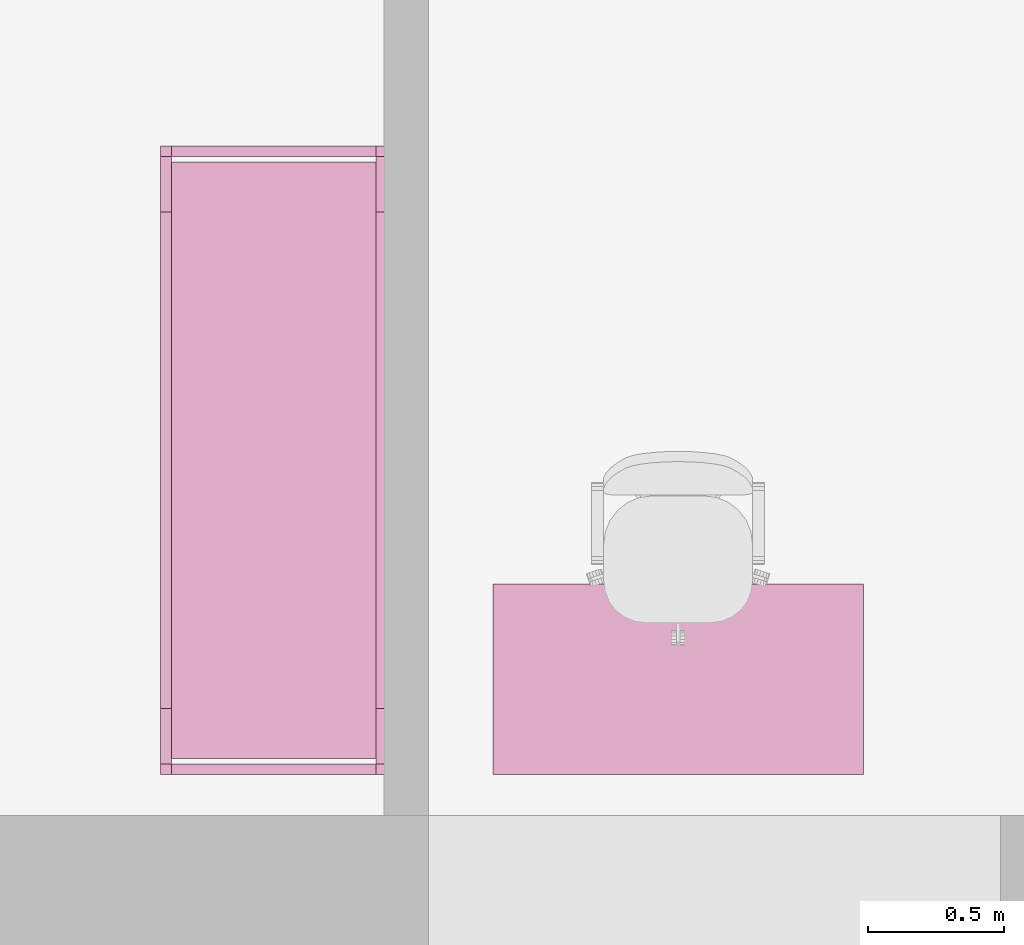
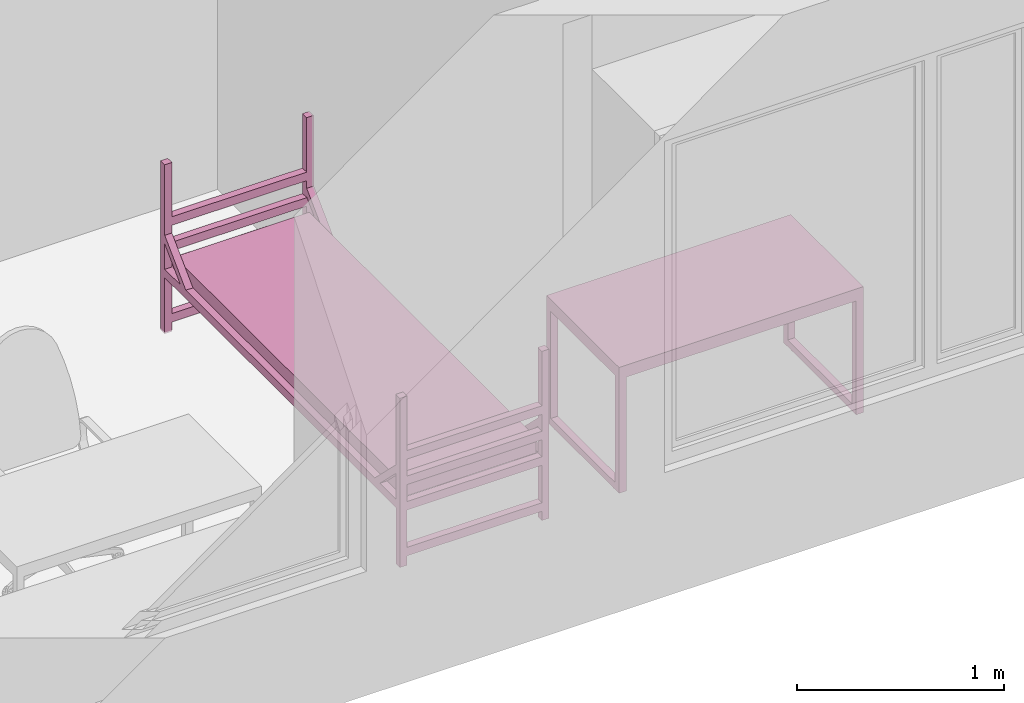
# One storey, part 27 of 46: 2 furnishings.
"""IFC2X3 building model written with IfcOpenShell, lengths in millimetres."""

from ifc_helpers import new_model, entity, si_unit, converted_unit, derived_unit, direction, frame, frame_2d, origin, place, context, subcontext, project, spatial, polyline, circle_curve, parameter, trimmed, segment, composite_curve, rectangle, outline, extrude, faceted_brep, source, transform, mapped, material, material_list, type_object, type_shapes, element, save


model = new_model("IFC2X3")

# Units and contexts
model_context = context("Model", 3, precision=0.01, world=origin(), true_north=direction((6.12303176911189e-17, 1.0)))
body_context = subcontext(model_context, "Body", "Model", "MODEL_VIEW")
ifc_project = project(units=[si_unit("LENGTHUNIT", "METRE", prefix="MILLI"), si_unit("AREAUNIT", "SQUARE_METRE"), si_unit("VOLUMEUNIT", "CUBIC_METRE"), converted_unit("PLANEANGLEUNIT", "DEGREE", entity("IfcRatioMeasure", 0.0174532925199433), si_unit("PLANEANGLEUNIT", "RADIAN"), dimensions=[0, 0, 0, 0, 0, 0, 0]), si_unit("MASSUNIT", "GRAM", prefix="KILO"), derived_unit("MASSDENSITYUNIT", [(si_unit("MASSUNIT", "GRAM", prefix="KILO"), 1), (si_unit("LENGTHUNIT", "METRE"), -3)]), si_unit("TIMEUNIT", "SECOND"), si_unit("FREQUENCYUNIT", "HERTZ"), si_unit("THERMODYNAMICTEMPERATUREUNIT", "DEGREE_CELSIUS"), derived_unit("THERMALTRANSMITTANCEUNIT", [(si_unit("MASSUNIT", "GRAM", prefix="KILO"), 1), (si_unit("THERMODYNAMICTEMPERATUREUNIT", "KELVIN"), -1), (si_unit("TIMEUNIT", "SECOND"), -3)]), derived_unit("VOLUMETRICFLOWRATEUNIT", [(si_unit("LENGTHUNIT", "METRE"), 3), (si_unit("TIMEUNIT", "SECOND"), -1)]), si_unit("ELECTRICCURRENTUNIT", "AMPERE"), si_unit("ELECTRICVOLTAGEUNIT", "VOLT"), si_unit("POWERUNIT", "WATT"), si_unit("FORCEUNIT", "NEWTON", prefix="KILO"), si_unit("ILLUMINANCEUNIT", "LUX"), si_unit("LUMINOUSFLUXUNIT", "LUMEN"), si_unit("LUMINOUSINTENSITYUNIT", "CANDELA"), derived_unit("USERDEFINED", [(si_unit("MASSUNIT", "GRAM", prefix="KILO"), -1), (si_unit("LENGTHUNIT", "METRE"), -2), (si_unit("TIMEUNIT", "SECOND"), 3), (si_unit("LUMINOUSFLUXUNIT", "LUMEN"), 1)]), derived_unit("LINEARVELOCITYUNIT", [(si_unit("LENGTHUNIT", "METRE"), 1), (si_unit("TIMEUNIT", "SECOND"), -1)]), si_unit("PRESSUREUNIT", "PASCAL"), derived_unit("USERDEFINED", [(si_unit("LENGTHUNIT", "METRE"), -2), (si_unit("MASSUNIT", "GRAM", prefix="KILO"), 1), (si_unit("TIMEUNIT", "SECOND"), -2)]), derived_unit("LINEARFORCEUNIT", [(si_unit("MASSUNIT", "GRAM", prefix="KILO"), 1), (si_unit("LENGTHUNIT", "METRE"), 1), (si_unit("TIMEUNIT", "SECOND"), -2), (si_unit("LENGTHUNIT", "METRE"), -1)]), derived_unit("PLANARFORCEUNIT", [(si_unit("MASSUNIT", "GRAM", prefix="KILO"), 1), (si_unit("LENGTHUNIT", "METRE"), 1), (si_unit("TIMEUNIT", "SECOND"), -2), (si_unit("LENGTHUNIT", "METRE"), -2)])], contexts=[model_context])

# Site, building, storey, space
site_placement = place(None, origin())
site = spatial("IfcSite", under=ifc_project, at=site_placement, Name="Default", CompositionType="ELEMENT")
building_placement = place(site_placement, origin())
building = spatial("IfcBuilding", under=site, at=building_placement, Name="SMA ARH", CompositionType="ELEMENT")
storey_placement = place(building_placement, frame((0.0, 0.0, 9910.0)))
storey = spatial("IfcBuildingStorey", under=building, at=storey_placement, Name="4 Korrus", CompositionType="ELEMENT", Elevation=9909.9999999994)
space_1_placement = place(storey_placement, origin())
space_1 = spatial("IfcSpace", under=storey, at=space_1_placement, Name="4-12", CompositionType="ELEMENT", InteriorOrExteriorSpace="INTERNAL")

# Furnishing
ifc_material_1 = material(Name="Madrats")
furniture_type_1 = type_object("IfcFurnitureType", Name="Kasarmu voodi ühekordne 2308x830:Kasarmu voodi ühekordne 2308x830", material=ifc_material_1)
shared_shape_1 = source(origin(), body_context, "Body", "SweptSolid", [
    extrude(rectangle(XDim=39.9999999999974, YDim=750.000000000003, at=frame_2d((-1.35003119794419e-13, -2.8421709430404e-14), x_axis=(1.0, 0.0))), frame((1.68638457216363, -1226.7969571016, 55.0), z_axis=(0.0, 0.0, 1.0), x_axis=(0.0, -1.0, 0.0)), (0.0, 0.0, 1.0), 49.9999999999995),
    extrude(rectangle(XDim=39.9999999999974, YDim=750.000000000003, at=frame_2d((-1.35003119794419e-13, -2.8421709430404e-14), x_axis=(1.0, 0.0))), frame((1.68638457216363, -1226.7969571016, 325.0), z_axis=(0.0, 0.0, 1.0), x_axis=(0.0, -1.0, 0.0)), (0.0, 0.0, 1.0), 49.9999999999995),
    extrude(rectangle(XDim=39.9999999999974, YDim=750.000000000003, at=frame_2d((-1.35003119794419e-13, -2.8421709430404e-14), x_axis=(1.0, 0.0))), frame((1.68638457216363, -1226.7969571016, 475.0), z_axis=(0.0, 0.0, 1.0), x_axis=(0.0, -1.0, 0.0)), (0.0, 0.0, 1.0), 49.9999999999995),
    extrude(rectangle(XDim=39.9999999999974, YDim=750.000000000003, at=frame_2d((-1.35003119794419e-13, -2.8421709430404e-14), x_axis=(1.0, 0.0))), frame((1.68638457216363, -1226.7969571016, 625.0), z_axis=(0.0, 0.0, 1.0), x_axis=(0.0, -1.0, 0.0)), (0.0, 0.0, 1.0), 50.0000000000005),
    extrude(rectangle(XDim=39.9999999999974, YDim=750.000000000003, at=frame_2d((1.35003119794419e-13, -2.8421709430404e-14), x_axis=(1.0, 0.0))), frame((1.68638457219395, 1041.2030428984, 55.0), z_axis=(0.0, 0.0, 1.0), x_axis=(0.0, -1.0, 0.0)), (0.0, 0.0, 1.0), 50.0000000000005),
    extrude(rectangle(XDim=39.9999999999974, YDim=750.000000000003, at=frame_2d((1.35003119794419e-13, -2.8421709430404e-14), x_axis=(1.0, 0.0))), frame((1.68638457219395, 1041.2030428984, 325.0), z_axis=(0.0, 0.0, 1.0), x_axis=(0.0, -1.0, 0.0)), (0.0, 0.0, 1.0), 50.0000000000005),
    extrude(rectangle(XDim=39.9999999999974, YDim=750.000000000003, at=frame_2d((1.35003119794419e-13, -2.8421709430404e-14), x_axis=(1.0, 0.0))), frame((1.68638457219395, 1041.2030428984, 475.0), z_axis=(0.0, 0.0, 1.0), x_axis=(0.0, -1.0, 0.0)), (0.0, 0.0, 1.0), 50.0000000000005),
    extrude(rectangle(XDim=39.9999999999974, YDim=750.000000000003, at=frame_2d((1.35003119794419e-13, -2.8421709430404e-14), x_axis=(1.0, 0.0))), frame((1.68638457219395, 1041.2030428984, 625.0), z_axis=(0.0, 0.0, 1.0), x_axis=(0.0, -1.0, 0.0)), (0.0, 0.0, 1.0), 49.9999999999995),
    extrude(outline(composite_curve([segment(trimmed(circle_curve(frame_2d((1085.0, -40.0), x_axis=(1.0, 0.0)), 10.0), [parameter(270.0)], [parameter(0.0)], True, "PARAMETER"), True, "CONTINUOUS"), segment(polyline([(1095.0, -40.0), (1095.0, 40.0)]), True, "CONTINUOUS"), segment(trimmed(circle_curve(frame_2d((1085.0, 40.0), x_axis=(1.0, 0.0)), 10.0), [parameter(0.0)], [parameter(90.0000000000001)], True, "PARAMETER"), True, "CONTINUOUS"), segment(polyline([(1085.0, 50.0), (-1085.0, 50.0)]), True, "CONTINUOUS"), segment(trimmed(circle_curve(frame_2d((-1085.0, 40.0), x_axis=(1.0, 0.0)), 10.0), [parameter(90.0000000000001)], [parameter(180.0)], True, "PARAMETER"), True, "CONTINUOUS"), segment(polyline([(-1095.0, 40.0), (-1095.0, -40.0)]), True, "CONTINUOUS"), segment(trimmed(circle_curve(frame_2d((-1085.0, -40.0), x_axis=(1.0, 0.0)), 10.0), [parameter(180.0)], [parameter(270.0)], True, "PARAMETER"), True, "CONTINUOUS"), segment(polyline([(-1085.0, -50.0), (1085.0, -50.0)]), True, "CONTINUOUS")], self_intersect=False)), frame((-373.313615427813, -92.7969571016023, 405.0), z_axis=(1.0, 0.0, 0.0), x_axis=(0.0, -1.0, 0.0)), (0.0, 0.0, 1.0), 750.000000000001),
    extrude(outline(polyline([(-1114.0, -100.0), (1114.0, -100.0), (1114.0, -50.0), (961.59199141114, -50.0), (1114.0, 100.0), (1114.0, 150.0), (910.789321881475, -50.0), (-910.789321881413, -50.0), (-1114.0, 150.0), (-1114.0, 100.0), (-961.591991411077, -50.0), (-1114.0, -50.0), (-1114.0, -100.0)])), frame((-413.313615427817, -92.7969571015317, 430.0), z_axis=(1.0, 0.0, 0.0), x_axis=(0.0, 1.0, 0.0)), (0.0, 0.0, 1.0), 39.9999999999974),
    extrude(outline(polyline([(-1114.0, -100.0), (1114.0, -100.0), (1114.0, -50.0), (961.591991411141, -50.0), (1114.0, 100.0), (1114.0, 150.0), (910.789321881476, -50.0), (-910.789321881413, -50.0), (-1114.0, 150.0), (-1114.0, 100.0), (-961.591991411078, -50.0), (-1114.0, -50.0), (-1114.0, -100.0)])), frame((376.686384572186, -92.796957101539, 430.0), z_axis=(1.0, 0.0, 0.0), x_axis=(0.0, 1.0, 0.0)), (0.0, 0.0, 1.0), 39.9999999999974),
    extrude(rectangle(XDim=39.9999999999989, YDim=39.9999999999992, at=frame_2d((-6.75015598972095e-14, 0.0), x_axis=(1.0, 0.0))), frame((396.686384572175, -1226.79695710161, 0.0), z_axis=(0.0, 0.0, 1.0), x_axis=(0.0, 1.0, 0.0)), (0.0, 0.0, 1.0), 995.0),
    extrude(rectangle(XDim=39.9999999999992, YDim=39.9999999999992, at=frame_2d((-1.35003119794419e-13, 0.0), x_axis=(1.0, 0.0))), frame((396.686384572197, 1041.20304289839, 0.0), z_axis=(0.0, 0.0, 1.0), x_axis=(0.0, 1.0, 0.0)), (0.0, 0.0, 1.0), 995.0),
    extrude(rectangle(XDim=40.0000000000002, YDim=39.9999999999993, at=frame_2d((-1.35003119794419e-13, 0.0), x_axis=(1.0, 0.0))), frame((-393.313615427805, 1041.2030428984, 0.0), z_axis=(0.0, 0.0, 1.0), x_axis=(0.0, 1.0, 0.0)), (0.0, 0.0, 1.0), 995.0),
    extrude(rectangle(XDim=39.9999999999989, YDim=39.9999999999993, at=frame_2d((-6.75015598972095e-14, 0.0), x_axis=(1.0, 0.0))), frame((-393.313615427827, -1226.7969571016, 0.0), z_axis=(0.0, 0.0, 1.0), x_axis=(0.0, 1.0, 0.0)), (0.0, 0.0, 1.0), 995.0),
])
type_shapes(furniture_type_1, [shared_shape_1])
furnishing_1_placement = place(space_1_placement, frame((15754.1863845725, 1211.20304289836, 0.0), z_axis=(0.0, 0.0, 1.0), x_axis=(-1.0, 0.0, 0.0)))
element("IfcFurnishingElement", 1, at=furnishing_1_placement, inside=space_1, type_object=furniture_type_1, material=ifc_material_1, Name="Kasarmu voodi ühekordne 2308x830:Kasarmu voodi ühekordne 2308x830", ObjectType="Kasarmu voodi ühekordne 2308x830:Kasarmu voodi ühekordne 2308x830", context=body_context, shape_type="MappedRepresentation", body=[
    mapped(shared_shape_1, transform((0.0, 0.0, 0.0), scale=1.0)),
])

# Space
space_2_placement = place(storey_placement, origin())
space_2 = spatial("IfcSpace", under=storey, at=space_2_placement, Name="4-9", CompositionType="ELEMENT", InteriorOrExteriorSpace="INTERNAL")

# Furnishing
ifc_material_2 = material(Name="<Unnamed>")
ifc_material_list = material_list([ifc_material_2, ifc_material_2])
furniture_type_2 = type_object("IfcFurnitureType", Name="kirjutuslaud 1360x700mm:kirjutuslaud 1360x700mm", material=ifc_material_list)
shared_shape_2 = source(origin(), body_context, "Body", "Brep", [
    faceted_brep([(680.0, -350.0, 720.0), (680.0, 350.0, 720.0), (680.0, 350.0, 750.0), (680.0, -350.0, 750.0), (-680.0, -350.0, 720.0), (-680.0, -350.0, 750.0), (-680.0, 350.0, 750.0), (-680.0, 350.0, 720.0)], [[[0, 1, 2, 3]], [[4, 5, 6, 7]], [[1, 0, 4, 7]], [[2, 1, 7, 6]], [[3, 2, 6, 5]], [[0, 3, 5, 4]]]),
    faceted_brep([(-640.0, -310.0, 680.0), (-640.0, 310.0, 680.0), (-640.0, 310.0, 720.0), (-640.0, -310.0, 720.0), (-680.0, -350.0, 720.0), (-680.0, 350.0, 720.0), (-680.0, 350.0, 10.0), (-680.0, -350.0, 10.0), (-680.0, 310.0, 680.0), (-680.0, -310.0, 680.0), (-680.0, -310.0, 50.0), (-680.0, 310.0, 50.0), (-640.0, -350.0, 10.0), (-640.0, -350.0, 680.0), (640.0, -350.0, 680.0), (640.0, -350.0, 10.0), (680.0, -350.0, 10.0), (680.0, -350.0, 720.0), (-640.0, 350.0, 10.0), (680.0, 350.0, 720.0), (680.0, 350.0, 10.0), (640.0, 350.0, 10.0), (640.0, 350.0, 680.0), (-640.0, 350.0, 680.0), (640.0, 310.0, 720.0), (640.0, -310.0, 720.0), (-640.0, 310.0, 50.0), (-640.0, -310.0, 50.0), (640.0, -310.0, 680.0), (640.0, 310.0, 680.0), (680.0, 310.0, 680.0), (680.0, 310.0, 50.0), (680.0, -310.0, 50.0), (680.0, -310.0, 680.0), (640.0, -310.0, 50.0), (640.0, 310.0, 50.0)], [[[0, 1, 2, 3]], [[4, 5, 6, 7], [8, 9, 10, 11]], [[4, 7, 12, 13, 14, 15, 16, 17]], [[18, 12, 7, 6]], [[6, 5, 19, 20, 21, 22, 23, 18]], [[19, 5, 4, 17], [2, 24, 25, 3]], [[26, 1, 8, 11]], [[27, 26, 11, 10]], [[0, 27, 10, 9]], [[1, 0, 9, 8]], [[14, 13, 0, 28]], [[24, 2, 1, 29]], [[3, 25, 28, 0]], [[17, 16, 20, 19], [30, 31, 32, 33]], [[21, 15, 14, 28, 34, 35, 29, 22]], [[20, 16, 15, 21]], [[31, 30, 29, 35]], [[32, 31, 35, 34]], [[33, 32, 34, 28]], [[30, 33, 28, 29]], [[29, 28, 25, 24]], [[29, 1, 23, 22]], [[12, 18, 23, 1, 26, 27, 0, 13]]]),
    faceted_brep([(-663.729456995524, -270.466136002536, 0.0), (-659.847171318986, -269.955023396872, 0.0), (-655.964885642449, -270.466136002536, 0.0), (-652.347171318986, -271.964642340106, 0.0), (-649.240569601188, -274.348421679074, 0.0), (-646.85679026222, -277.455023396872, 0.0), (-645.35828392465, -281.072737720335, 0.0), (-644.847171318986, -284.955023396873, 0.0), (-645.35828392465, -288.83730907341, 0.0), (-646.85679026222, -292.455023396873, 0.0), (-649.240569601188, -295.561625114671, 0.0), (-652.347171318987, -297.945404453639, 0.0), (-655.964885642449, -299.443910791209, 0.0), (-659.847171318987, -299.955023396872, 0.0), (-663.729456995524, -299.443910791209, 0.0), (-667.347171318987, -297.945404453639, 0.0), (-670.453773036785, -295.561625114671, 0.0), (-672.837552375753, -292.455023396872, 0.0), (-674.336058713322, -288.83730907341, 0.0), (-674.847171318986, -284.955023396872, 0.0), (-674.336058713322, -281.072737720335, 0.0), (-672.837552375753, -277.455023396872, 0.0), (-670.453773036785, -274.348421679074, 0.0), (-667.347171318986, -271.964642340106, 0.0), (-655.964885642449, -299.443910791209, 10.0), (-652.347171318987, -297.945404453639, 10.0), (-649.240569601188, -295.561625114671, 10.0), (-646.85679026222, -292.455023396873, 10.0), (-645.35828392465, -288.83730907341, 10.0), (-644.847171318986, -284.955023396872, 10.0), (-645.35828392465, -281.072737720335, 10.0), (-646.85679026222, -277.455023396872, 10.0), (-649.240569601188, -274.348421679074, 10.0), (-652.347171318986, -271.964642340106, 10.0), (-655.964885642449, -270.466136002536, 10.0), (-659.847171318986, -269.955023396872, 10.0), (-663.729456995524, -270.466136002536, 10.0), (-667.347171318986, -271.964642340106, 10.0), (-670.453773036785, -274.348421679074, 10.0), (-672.837552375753, -277.455023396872, 10.0), (-674.336058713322, -281.072737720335, 10.0), (-674.847171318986, -284.955023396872, 10.0), (-674.336058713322, -288.83730907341, 10.0), (-672.837552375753, -292.455023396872, 10.0), (-670.453773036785, -295.561625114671, 10.0), (-667.347171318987, -297.945404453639, 10.0), (-663.729456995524, -299.443910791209, 10.0), (-659.847171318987, -299.955023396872, 10.0)], [[[0, 1, 2, 3, 4, 5, 6, 7, 8, 9, 10, 11, 12, 13, 14, 15, 16, 17, 18, 19, 20, 21, 22, 23]], [[24, 25, 26, 27, 28, 29, 30, 31, 32, 33, 34, 35, 36, 37, 38, 39, 40, 41, 42, 43, 44, 45, 46, 47]], [[18, 42, 41, 19]], [[17, 43, 42, 18]], [[45, 44, 16, 15]], [[17, 16, 44, 43]], [[46, 45, 15, 14]], [[47, 46, 14, 13]], [[12, 24, 47, 13]], [[11, 25, 24, 12]], [[27, 26, 10, 9]], [[11, 10, 26, 25]], [[28, 27, 9, 8]], [[29, 28, 8, 7]], [[6, 30, 29, 7]], [[5, 31, 30, 6]], [[33, 32, 4, 3]], [[5, 4, 32, 31]], [[34, 33, 3, 2]], [[35, 34, 2, 1]], [[0, 36, 35, 1]], [[23, 37, 36, 0]], [[39, 38, 22, 21]], [[23, 22, 38, 37]], [[40, 39, 21, 20]], [[41, 40, 20, 19]]]),
    faceted_brep([(-655.964885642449, 270.466136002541, 10.0), (-652.347171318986, 271.964642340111, 10.0), (-649.240569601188, 274.348421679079, 10.0), (-646.85679026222, 277.455023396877, 10.0), (-645.35828392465, 281.07273772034, 10.0), (-644.847171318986, 284.955023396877, 10.0), (-645.35828392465, 288.837309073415, 10.0), (-646.85679026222, 292.455023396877, 10.0), (-649.240569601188, 295.561625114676, 10.0), (-652.347171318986, 297.945404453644, 10.0), (-655.964885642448, 299.443910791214, 10.0), (-659.847171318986, 299.955023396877, 10.0), (-663.729456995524, 299.443910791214, 10.0), (-667.347171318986, 297.945404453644, 10.0), (-670.453773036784, 295.561625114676, 10.0), (-672.837552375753, 292.455023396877, 10.0), (-674.336058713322, 288.837309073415, 10.0), (-674.847171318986, 284.955023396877, 10.0), (-674.336058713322, 281.07273772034, 10.0), (-672.837552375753, 277.455023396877, 10.0), (-670.453773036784, 274.348421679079, 10.0), (-667.347171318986, 271.964642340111, 10.0), (-663.729456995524, 270.466136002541, 10.0), (-659.847171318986, 269.955023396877, 10.0), (-655.964885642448, 299.443910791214, 0.0), (-652.347171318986, 297.945404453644, 0.0), (-649.240569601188, 295.561625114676, 0.0), (-646.85679026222, 292.455023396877, 0.0), (-645.35828392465, 288.837309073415, 0.0), (-644.847171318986, 284.955023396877, 0.0), (-645.35828392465, 281.07273772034, 0.0), (-646.85679026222, 277.455023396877, 0.0), (-649.240569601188, 274.348421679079, 0.0), (-652.347171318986, 271.964642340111, 0.0), (-655.964885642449, 270.466136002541, 0.0), (-659.847171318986, 269.955023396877, 0.0), (-663.729456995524, 270.466136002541, 0.0), (-667.347171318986, 271.964642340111, 0.0), (-670.453773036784, 274.348421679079, 0.0), (-672.837552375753, 277.455023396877, 0.0), (-674.336058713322, 281.07273772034, 0.0), (-674.847171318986, 284.955023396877, 0.0), (-674.336058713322, 288.837309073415, 0.0), (-672.837552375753, 292.455023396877, 0.0), (-670.453773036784, 295.561625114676, 0.0), (-667.347171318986, 297.945404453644, 0.0), (-663.729456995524, 299.443910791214, 0.0), (-659.847171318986, 299.955023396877, 0.0)], [[[0, 1, 2, 3, 4, 5, 6, 7, 8, 9, 10, 11, 12, 13, 14, 15, 16, 17, 18, 19, 20, 21, 22, 23]], [[24, 25, 26, 27, 28, 29, 30, 31, 32, 33, 34, 35, 36, 37, 38, 39, 40, 41, 42, 43, 44, 45, 46, 47]], [[40, 18, 17, 41]], [[39, 19, 18, 40]], [[21, 20, 38, 37]], [[39, 38, 20, 19]], [[22, 21, 37, 36]], [[23, 22, 36, 35]], [[34, 0, 23, 35]], [[33, 1, 0, 34]], [[3, 2, 32, 31]], [[33, 32, 2, 1]], [[4, 3, 31, 30]], [[5, 4, 30, 29]], [[28, 6, 5, 29]], [[27, 7, 6, 28]], [[9, 8, 26, 25]], [[27, 26, 8, 7]], [[10, 9, 25, 24]], [[11, 10, 24, 47]], [[46, 12, 11, 47]], [[45, 13, 12, 46]], [[15, 14, 44, 43]], [[45, 44, 14, 13]], [[16, 15, 43, 42]], [[17, 16, 42, 41]]]),
    faceted_brep([(656.270543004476, -270.466136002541, 0.0), (660.152828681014, -269.955023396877, 0.0), (664.035114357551, -270.466136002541, 0.0), (667.652828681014, -271.96464234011, 0.0), (670.759430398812, -274.348421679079, 0.0), (673.14320973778, -277.455023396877, 0.0), (674.64171607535, -281.072737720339, 0.0), (675.152828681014, -284.955023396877, 0.0), (674.64171607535, -288.837309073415, 0.0), (673.14320973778, -292.455023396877, 0.0), (670.759430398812, -295.561625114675, 0.0), (667.652828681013, -297.945404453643, 0.0), (664.035114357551, -299.443910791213, 0.0), (660.152828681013, -299.955023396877, 0.0), (656.270543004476, -299.443910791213, 0.0), (652.652828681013, -297.945404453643, 0.0), (649.546226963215, -295.561625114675, 0.0), (647.162447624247, -292.455023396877, 0.0), (645.663941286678, -288.837309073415, 0.0), (645.152828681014, -284.955023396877, 0.0), (645.663941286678, -281.072737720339, 0.0), (647.162447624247, -277.455023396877, 0.0), (649.546226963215, -274.348421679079, 0.0), (652.652828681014, -271.96464234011, 0.0), (664.035114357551, -299.443910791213, 10.0), (667.652828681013, -297.945404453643, 10.0), (670.759430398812, -295.561625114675, 10.0), (673.14320973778, -292.455023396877, 10.0), (674.64171607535, -288.837309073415, 10.0), (675.152828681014, -284.955023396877, 10.0), (674.64171607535, -281.072737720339, 10.0), (673.14320973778, -277.455023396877, 10.0), (670.759430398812, -274.348421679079, 10.0), (667.652828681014, -271.96464234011, 10.0), (664.035114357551, -270.466136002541, 10.0), (660.152828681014, -269.955023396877, 10.0), (656.270543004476, -270.466136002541, 10.0), (652.652828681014, -271.96464234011, 10.0), (649.546226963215, -274.348421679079, 10.0), (647.162447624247, -277.455023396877, 10.0), (645.663941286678, -281.072737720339, 10.0), (645.152828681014, -284.955023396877, 10.0), (645.663941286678, -288.837309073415, 10.0), (647.162447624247, -292.455023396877, 10.0), (649.546226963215, -295.561625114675, 10.0), (652.652828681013, -297.945404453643, 10.0), (656.270543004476, -299.443910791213, 10.0), (660.152828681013, -299.955023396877, 10.0)], [[[0, 1, 2, 3, 4, 5, 6, 7, 8, 9, 10, 11, 12, 13, 14, 15, 16, 17, 18, 19, 20, 21, 22, 23]], [[24, 25, 26, 27, 28, 29, 30, 31, 32, 33, 34, 35, 36, 37, 38, 39, 40, 41, 42, 43, 44, 45, 46, 47]], [[18, 42, 41, 19]], [[17, 43, 42, 18]], [[45, 44, 16, 15]], [[17, 16, 44, 43]], [[46, 45, 15, 14]], [[47, 46, 14, 13]], [[12, 24, 47, 13]], [[11, 25, 24, 12]], [[27, 26, 10, 9]], [[11, 10, 26, 25]], [[28, 27, 9, 8]], [[29, 28, 8, 7]], [[6, 30, 29, 7]], [[5, 31, 30, 6]], [[33, 32, 4, 3]], [[5, 4, 32, 31]], [[34, 33, 3, 2]], [[35, 34, 2, 1]], [[0, 36, 35, 1]], [[23, 37, 36, 0]], [[39, 38, 22, 21]], [[23, 22, 38, 37]], [[40, 39, 21, 20]], [[41, 40, 20, 19]]]),
    faceted_brep([(664.035114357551, 270.466136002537, 10.0), (667.652828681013, 271.964642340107, 10.0), (670.759430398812, 274.348421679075, 10.0), (673.14320973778, 277.455023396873, 10.0), (674.64171607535, 281.072737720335, 10.0), (675.152828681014, 284.955023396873, 10.0), (674.64171607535, 288.837309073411, 10.0), (673.14320973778, 292.455023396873, 10.0), (670.759430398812, 295.561625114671, 10.0), (667.652828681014, 297.94540445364, 10.0), (664.035114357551, 299.443910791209, 10.0), (660.152828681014, 299.955023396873, 10.0), (656.270543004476, 299.443910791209, 10.0), (652.652828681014, 297.94540445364, 10.0), (649.546226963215, 295.561625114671, 10.0), (647.162447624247, 292.455023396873, 10.0), (645.663941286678, 288.837309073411, 10.0), (645.152828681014, 284.955023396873, 10.0), (645.663941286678, 281.072737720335, 10.0), (647.162447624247, 277.455023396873, 10.0), (649.546226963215, 274.348421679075, 10.0), (652.652828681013, 271.964642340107, 10.0), (656.270543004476, 270.466136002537, 10.0), (660.152828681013, 269.955023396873, 10.0), (664.035114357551, 299.443910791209, 0.0), (667.652828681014, 297.94540445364, 0.0), (670.759430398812, 295.561625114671, 0.0), (673.14320973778, 292.455023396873, 0.0), (674.64171607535, 288.837309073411, 0.0), (675.152828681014, 284.955023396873, 0.0), (674.64171607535, 281.072737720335, 0.0), (673.14320973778, 277.455023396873, 0.0), (670.759430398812, 274.348421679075, 0.0), (667.652828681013, 271.964642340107, 0.0), (664.035114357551, 270.466136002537, 0.0), (660.152828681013, 269.955023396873, 0.0), (656.270543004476, 270.466136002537, 0.0), (652.652828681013, 271.964642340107, 0.0), (649.546226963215, 274.348421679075, 0.0), (647.162447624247, 277.455023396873, 0.0), (645.663941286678, 281.072737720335, 0.0), (645.152828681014, 284.955023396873, 0.0), (645.663941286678, 288.837309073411, 0.0), (647.162447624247, 292.455023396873, 0.0), (649.546226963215, 295.561625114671, 0.0), (652.652828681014, 297.94540445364, 0.0), (656.270543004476, 299.443910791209, 0.0), (660.152828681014, 299.955023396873, 0.0)], [[[0, 1, 2, 3, 4, 5, 6, 7, 8, 9, 10, 11, 12, 13, 14, 15, 16, 17, 18, 19, 20, 21, 22, 23]], [[24, 25, 26, 27, 28, 29, 30, 31, 32, 33, 34, 35, 36, 37, 38, 39, 40, 41, 42, 43, 44, 45, 46, 47]], [[40, 18, 17, 41]], [[39, 19, 18, 40]], [[21, 20, 38, 37]], [[39, 38, 20, 19]], [[22, 21, 37, 36]], [[23, 22, 36, 35]], [[34, 0, 23, 35]], [[33, 1, 0, 34]], [[3, 2, 32, 31]], [[33, 32, 2, 1]], [[4, 3, 31, 30]], [[5, 4, 30, 29]], [[28, 6, 5, 29]], [[27, 7, 6, 28]], [[9, 8, 26, 25]], [[27, 26, 8, 7]], [[10, 9, 25, 24]], [[11, 10, 24, 47]], [[46, 12, 11, 47]], [[45, 13, 12, 46]], [[15, 14, 44, 43]], [[45, 44, 14, 13]], [[16, 15, 43, 42]], [[17, 16, 42, 41]]]),
])
type_shapes(furniture_type_2, [shared_shape_2])
furnishing_2_placement = place(space_2_placement, frame((17237.0, 500.0, 0.0)))
element("IfcFurnishingElement", 2, at=furnishing_2_placement, inside=space_2, type_object=furniture_type_2, Name="kirjutuslaud 1360x700mm:kirjutuslaud 1360x700mm", ObjectType="kirjutuslaud 1360x700mm:kirjutuslaud 1360x700mm", context=body_context, shape_type="MappedRepresentation", body=[
    mapped(shared_shape_2, transform((0.0, 0.0, 0.0), scale=1.0)),
])

save(model, "model.ifc")
